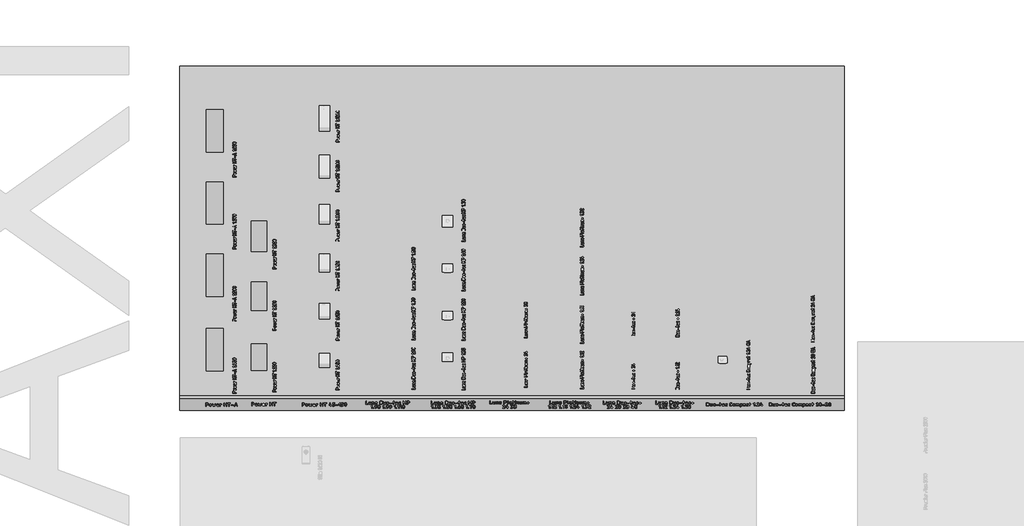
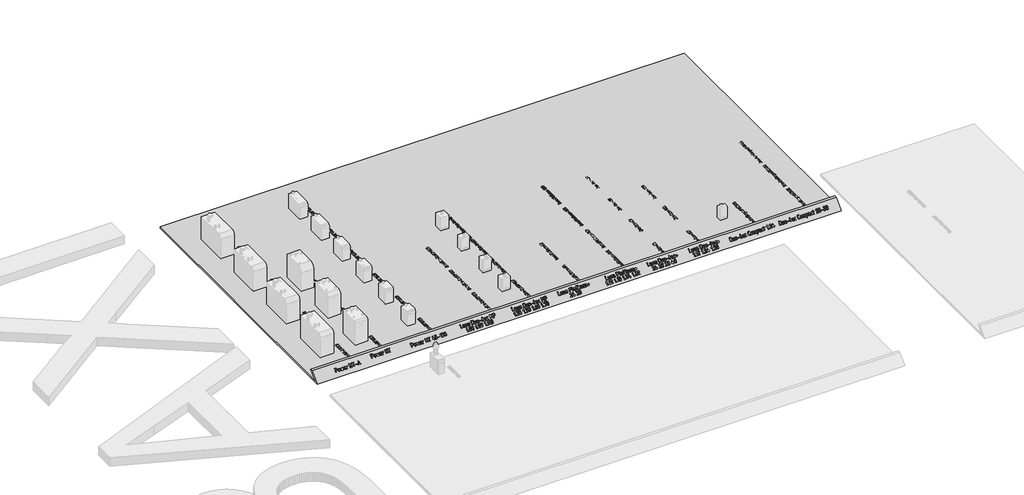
# One storey, part 35 of 37: 4 proxies.
"""IFC4 building model written with IfcOpenShell, lengths in millimetres."""

from ifc_helpers import new_model, si_unit, frame, origin, place, context, project, spatial, polyline, outline, extrude, transform, mapped, element, save
from components import generic_models_4aa8a2a9

model = new_model("IFC4")

# Units and contexts
model_context = context("Model", 3, world=origin())
ifc_project = project(units=[si_unit("LENGTHUNIT", "METRE", prefix="MILLI")], contexts=[model_context])

# Site, building, storey
site = spatial("IfcSite", under=ifc_project)
building = spatial("IfcBuilding", under=site)
storey = spatial("IfcBuildingStorey", under=building, Name="01_Стартовый вид_Площадка", Elevation=0.0)

# Proxies
placement = place(None, origin())
element("IfcBuildingElementProxy", 1, Name="150 мм", ObjectType="150 мм", at=placement, inside=storey, context=model_context, shape_type="SweptSolid", body=[
    extrude(outline(polyline([(15539.4355153, -171.7183075), (15533.7723757, -169.8006306), (15531.8846626, -164.0475999), (15533.7623878, -158.2945692), (15539.3955637, -156.3768923), (15667.4004968, -156.3768923), (15667.4004968, -103.8804872), (15669.3181737, -98.2473113), (15675.0712044, -96.369586), (15680.8242351, -98.2473113), (15682.741912, -103.8804872), (15682.741912, -164.0475999), (15680.8541988, -169.8006306), (15675.1910592, -171.7183075), (15539.4355153, -171.7183075)])), frame((0.0, 0.0, -10.0), z_axis=(0.0, 0.0, 1.0), x_axis=(1.0, 0.0, 0.0)), (0.0, 0.0, 1.0), 10.0),
    extrude(outline(polyline([(15585.3798577, 7.2648698), (15675.2709624, 7.2648698), (15680.8741746, 5.4071203), (15682.741912, -0.1661282), (15682.741912, -37.2412149), (15680.5745376, -48.7372884), (15674.0724143, -58.2957092), (15664.4141145, -64.737905), (15652.7782104, -66.8853037), (15585.3798577, -66.8853037), (15579.7766455, -64.9676268), (15577.9089081, -59.2145961), (15579.7766455, -53.4615654), (15585.3798577, -51.5438885), (15652.4985492, -51.5438885), (15662.9858448, -47.269067), (15667.4004968, -37.0414569), (15667.4004968, -8.0765454), (15585.3798577, -8.0765454), (15579.7766455, -6.1588685), (15577.9089081, -0.4058378), (15579.7766455, 5.3471929), (15585.3798577, 7.2648698)])), frame((0.0, 0.0, -10.0), z_axis=(0.0, 0.0, 1.0), x_axis=(1.0, 0.0, 0.0)), (0.0, 0.0, 1.0), 10.0),
    extrude(outline(polyline([(15675.2709624, 37.9477002), (15585.3798577, 37.9477002), (15579.7766455, 39.8054497), (15577.9089081, 45.3786982), (15577.9089081, 82.4537849), (15580.0762826, 93.9498584), (15586.5784058, 103.5082792), (15596.2367056, 109.950475), (15607.8726097, 112.0978737), (15675.2709624, 112.0978737), (15680.8741746, 110.1801968), (15682.741912, 104.4271661), (15680.8741746, 98.6741354), (15675.2709624, 96.7564585), (15608.1522709, 96.7564585), (15597.5451206, 92.581516), (15593.2503233, 82.2540269), (15593.2503233, 53.2891154), (15675.2709624, 53.2891154), (15680.8741746, 51.3714385), (15682.741912, 45.6184078), (15680.8741746, 39.8653771), (15675.2709624, 37.9477002)])), frame((0.0, 0.0, -10.0), z_axis=(0.0, 0.0, 1.0), x_axis=(1.0, 0.0, 0.0)), (0.0, 0.0, 1.0), 10.0),
    extrude(outline(polyline([(15682.741912, 171.5858091), (15680.5196041, 159.9698808), (15673.8526805, 150.2916052), (15663.9596651, 143.7595183), (15652.0590816, 141.582156), (15636.5978116, 145.5773162), (15625.1816413, 156.3342851), (15621.3762512, 171.5858091), (15621.3762512, 201.5894623), (15607.3132873, 201.5894623), (15597.305411, 197.2746893), (15593.2503233, 186.6076115), (15593.2503233, 156.6039584), (15591.3326464, 150.9707825), (15585.5796157, 149.0930572), (15579.826585, 150.9707825), (15577.9089081, 156.6039584), (15577.9089081, 186.6076115), (15580.0762826, 198.2884612), (15586.5784058, 208.0815976), (15596.2367056, 214.7185575), (15607.8726097, 216.9308775), (15675.2709624, 216.9308775), (15680.8741746, 215.0132006), (15682.741912, 209.2601699), (15682.741912, 171.5858091)]), holes=[polyline([(15636.7176664, 201.5894623), (15636.7176664, 171.5858091), (15641.1922458, 160.9786588), (15652.0590816, 156.6039584), (15662.86599, 161.0385862), (15667.4004968, 171.5858091), (15667.4004968, 201.5894623), (15636.7176664, 201.5894623)])]), frame((0.0, 0.0, -10.0), z_axis=(0.0, 0.0, 1.0), x_axis=(1.0, 0.0, 0.0)), (0.0, 0.0, 1.0), 10.0),
    extrude(outline(polyline([(15531.8846626, 306.2227081), (15531.8846626, 343.4975529), (15535.2405971, 360.751651), (15545.3084008, 375.1991491), (15560.1703968, 384.9822977), (15577.9089081, 388.2433472), (15596.4464515, 385.152092), (15611.1486411, 375.8783264), (15620.7370256, 361.66055), (15623.9331537, 343.7372625), (15623.9331537, 314.0931738), (15675.3908172, 314.0931738), (15680.9041383, 312.1754969), (15682.741912, 306.4224662), (15680.8541988, 300.6694355), (15675.1910592, 298.7517586), (15539.4355153, 298.7517586), (15533.7723757, 300.619496), (15531.8846626, 306.2227081)]), holes=[polyline([(15547.2260777, 314.0931738), (15608.5917385, 314.0931738), (15608.5917385, 343.4975529), (15606.3694307, 354.8887534), (15599.7025071, 364.372265), (15589.8094916, 370.7695152), (15577.9089081, 372.901932), (15566.0083247, 370.7695152), (15556.1153092, 364.372265), (15549.4483856, 354.8887534), (15547.2260777, 343.4975529), (15547.2260777, 314.0931738)])]), frame((0.0, 0.0, -10.0), z_axis=(0.0, 0.0, 1.0), x_axis=(1.0, 0.0, 0.0)), (0.0, 0.0, 1.0), 10.0),
    extrude(outline(polyline([(15539.4355153, 418.9261776), (15533.7723757, 420.8438545), (15531.8846626, 426.5968852), (15533.7723757, 432.3499159), (15539.4355153, 434.2675928), (15660.1293052, 434.2675928), (15664.9035217, 436.1403241), (15667.6402064, 441.7585182), (15670.3868791, 447.3767122), (15675.1910592, 449.2494436), (15680.8541988, 447.3817062), (15682.741912, 441.778494), (15681.2437269, 432.5546679), (15676.7491717, 425.2585065), (15669.5978349, 420.5092598), (15660.1293052, 418.9261776), (15539.4355153, 418.9261776)])), frame((0.0, 0.0, -10.0), z_axis=(0.0, 0.0, 1.0), x_axis=(1.0, 0.0, 0.0)), (0.0, 0.0, 1.0), 10.0),
    extrude(outline(polyline([(15682.741912, 506.540041), (15680.5196041, 494.9241127), (15673.8526805, 485.245837), (15663.9596651, 478.7137501), (15652.0590816, 476.5363878), (15636.5978116, 480.531548), (15625.1816413, 491.2885169), (15621.3762512, 506.540041), (15621.3762512, 536.5436941), (15607.3132873, 536.5436941), (15597.305411, 532.2289211), (15593.2503233, 521.5618433), (15593.2503233, 491.5581902), (15591.3326464, 485.9250143), (15585.5796157, 484.047289), (15579.826585, 485.9250143), (15577.9089081, 491.5581902), (15577.9089081, 521.5618433), (15580.0762826, 533.242693), (15586.5784058, 543.0358295), (15596.2367056, 549.6727893), (15607.8726097, 551.8851093), (15675.2709624, 551.8851093), (15680.8741746, 549.9674324), (15682.741912, 544.2144017), (15682.741912, 506.540041)]), holes=[polyline([(15636.7176664, 536.5436941), (15636.7176664, 506.540041), (15641.1922458, 495.9328906), (15652.0590816, 491.5581902), (15662.86599, 495.992818), (15667.4004968, 506.540041), (15667.4004968, 536.5436941), (15636.7176664, 536.5436941)])]), frame((0.0, 0.0, -10.0), z_axis=(0.0, 0.0, 1.0), x_axis=(1.0, 0.0, 0.0)), (0.0, 0.0, 1.0), 10.0),
    extrude(outline(polyline([(15593.2503233, 597.9093549), (15593.2503233, 590.3984537), (15591.3326464, 584.7652778), (15585.5796157, 582.8875525), (15579.826585, 584.7652778), (15577.9089081, 590.3984537), (15577.9089081, 597.9093549), (15539.5553702, 597.9093549), (15533.8023395, 599.8270318), (15531.8846626, 605.5800625), (15533.8023395, 611.3330932), (15539.5553702, 613.2507701), (15577.9089081, 613.2507701), (15577.9089081, 635.7834737), (15579.826585, 641.3866859), (15585.5796157, 643.2544233), (15591.3326464, 641.3866859), (15593.2503233, 635.7834737), (15593.2503233, 613.2507701), (15675.2709624, 613.2507701), (15680.8741746, 611.3330932), (15682.741912, 605.5800625), (15680.8741746, 599.8270318), (15675.2709624, 597.9093549), (15593.2503233, 597.9093549)])), frame((0.0, 0.0, -10.0), z_axis=(0.0, 0.0, 1.0), x_axis=(1.0, 0.0, 0.0)), (0.0, 0.0, 1.0), 10.0),
    extrude(outline(polyline([(15585.2200513, 672.0595284), (15579.6168391, 673.9772053), (15577.7491017, 679.730236), (15579.6168391, 685.4832667), (15585.2200513, 687.4009436), (15675.2310108, 687.4009436), (15680.8641867, 685.4832667), (15682.741912, 679.730236), (15680.8641867, 673.9772053), (15675.2310108, 672.0595284), (15585.2200513, 672.0595284)])), frame((0.0, 0.0, -10.0), z_axis=(0.0, 0.0, 1.0), x_axis=(1.0, 0.0, 0.0)), (0.0, 0.0, 1.0), 10.0),
    extrude(outline(polyline([(15546.9064649, 672.0595284), (15539.3955637, 672.0595284), (15533.7623878, 673.9772053), (15531.8846626, 679.730236), (15533.7623878, 685.4832667), (15539.3955637, 687.4009436), (15546.9064649, 687.4009436), (15552.5396408, 685.4832667), (15554.4173661, 679.730236), (15552.5396408, 673.9772053), (15546.9064649, 672.0595284)])), frame((0.0, 0.0, -10.0), z_axis=(0.0, 0.0, 1.0), x_axis=(1.0, 0.0, 0.0)), (0.0, 0.0, 1.0), 10.0),
    extrude(outline(polyline([(15675.2709624, 718.083774), (15585.3798577, 718.083774), (15579.7766455, 719.9415234), (15577.9089081, 725.5147719), (15577.9089081, 762.5898587), (15580.0762826, 774.0859322), (15586.5784058, 783.644353), (15596.2367056, 790.0865488), (15607.8726097, 792.2339474), (15675.2709624, 792.2339474), (15680.8741746, 790.3162705), (15682.741912, 784.5632398), (15680.8741746, 778.8102091), (15675.2709624, 776.8925322), (15608.1522709, 776.8925322), (15597.5451206, 772.7175898), (15593.2503233, 762.3901007), (15593.2503233, 733.4251892), (15675.2709624, 733.4251892), (15680.8741746, 731.5075123), (15682.741912, 725.7544816), (15680.8741746, 720.0014509), (15675.2709624, 718.083774)])), frame((0.0, 0.0, -10.0), z_axis=(0.0, 0.0, 1.0), x_axis=(1.0, 0.0, 0.0)), (0.0, 0.0, 1.0), 10.0),
    extrude(outline(polyline([(15585.3798577, 897.0669513), (15675.2709624, 897.0669513), (15680.8741746, 895.2092018), (15682.741912, 889.6359533), (15682.741912, 852.5608665), (15680.5745376, 841.064793), (15674.0724143, 831.5063722), (15664.4141145, 825.0641764), (15652.7782104, 822.9167778), (15585.3798577, 822.9167778), (15579.7766455, 824.8344547), (15577.9089081, 830.5874854), (15579.7766455, 836.3405161), (15585.3798577, 838.258193), (15652.4985492, 838.258193), (15662.9858448, 842.5330144), (15667.4004968, 852.7606246), (15667.4004968, 881.7255361), (15585.3798577, 881.7255361), (15579.7766455, 883.643213), (15577.9089081, 889.3962437), (15579.7766455, 895.1492744), (15585.3798577, 897.0669513)])), frame((0.0, 0.0, -10.0), z_axis=(0.0, 0.0, 1.0), x_axis=(1.0, 0.0, 0.0)), (0.0, 0.0, 1.0), 10.0),
    extrude(outline(polyline([(15577.9089081, 935.4204893), (15577.9089081, 1004.4568576), (15580.0762826, 1016.3574411), (15586.5784058, 1026.2504566), (15596.2367056, 1032.9173802), (15607.8726097, 1035.139688), (15675.2709624, 1035.139688), (15680.8741746, 1033.2220111), (15682.741912, 1027.4689804), (15680.8741746, 1021.7159497), (15675.2709624, 1019.7982728), (15608.1522709, 1019.7982728), (15597.5451206, 1015.3836208), (15593.2503233, 1004.4568576), (15593.2503233, 989.1154424), (15675.2709624, 989.1154424), (15680.8741746, 987.1977655), (15682.741912, 981.4447348), (15680.8741746, 975.6917041), (15675.2709624, 973.7740272), (15593.2503233, 973.7740272), (15593.2503233, 943.0911969), (15675.2709624, 943.0911969), (15680.8741746, 941.17352), (15682.741912, 935.4204893), (15680.8741746, 929.6674586), (15675.2709624, 927.7497817), (15585.3798577, 927.7497817), (15579.7766455, 929.6674586), (15577.9089081, 935.4204893)])), frame((0.0, 0.0, -10.0), z_axis=(0.0, 0.0, 1.0), x_axis=(1.0, 0.0, 0.0)), (0.0, 0.0, 1.0), 10.0),
    extrude(outline(polyline([(15636.7176664, 1096.5053488), (15636.7176664, 1074.0125969), (15634.7999895, 1068.379421), (15629.0469588, 1066.5016957), (15623.2939281, 1068.379421), (15621.3762512, 1074.0125969), (15621.3762512, 1096.5053488), (15600.2818053, 1096.5053488), (15595.0081938, 1098.4230257), (15593.2503233, 1104.1760564), (15595.0081938, 1109.9290871), (15600.2818053, 1111.846764), (15621.3762512, 1111.846764), (15621.3762512, 1134.339516), (15623.2939281, 1139.9726919), (15629.0469588, 1141.8504172), (15634.7999895, 1139.9726919), (15636.7176664, 1134.339516), (15636.7176664, 1111.846764), (15659.7297892, 1111.846764), (15665.4828199, 1109.9290871), (15667.4004968, 1104.1760564), (15665.4828199, 1098.4230257), (15659.7297892, 1096.5053488), (15636.7176664, 1096.5053488)])), frame((0.0, 0.0, -10.0), z_axis=(0.0, 0.0, 1.0), x_axis=(1.0, 0.0, 0.0)), (0.0, 0.0, 1.0), 10.0),
    extrude(outline(polyline([(15557.6134943, 1252.4764033), (15574.912538, 1235.2173112), (15577.0699245, 1229.9836514), (15575.1921992, 1224.3504755), (15569.5590233, 1222.4727502), (15564.3253634, 1224.6700883), (15534.8410811, 1253.9945642), (15531.8846626, 1260.1471109), (15533.7723757, 1265.9001416), (15539.4355153, 1267.8178185), (15675.1910592, 1267.8178185), (15680.8541988, 1265.9001416), (15682.741912, 1260.1471109), (15680.8541988, 1254.3940802), (15675.1910592, 1252.4764033), (15557.6134943, 1252.4764033)])), frame((0.0, 0.0, -10.0), z_axis=(0.0, 0.0, 1.0), x_axis=(1.0, 0.0, 0.0)), (0.0, 0.0, 1.0), 10.0),
    extrude(outline(polyline([(15667.4004968, 1298.5006489), (15661.6474661, 1300.4183258), (15659.7297892, 1306.1713565), (15661.6474661, 1311.9243872), (15667.4004968, 1313.8420641), (15675.0712044, 1313.8420641), (15680.8242351, 1311.9243872), (15682.741912, 1306.1713565), (15680.8242351, 1300.4183258), (15675.0712044, 1298.5006489), (15667.4004968, 1298.5006489)])), frame((0.0, 0.0, -10.0), z_axis=(0.0, 0.0, 1.0), x_axis=(1.0, 0.0, 0.0)), (0.0, 0.0, 1.0), 10.0),
    extrude(outline(polyline([(15531.8846626, 1381.6798845), (15534.6363291, 1396.1074068), (15542.8913289, 1408.227724), (15555.0515978, 1416.4527601), (15569.5190717, 1419.1944388), (15580.3159922, 1417.4865078), (15591.2127916, 1412.3627148), (15667.4004968, 1365.0999696), (15667.4004968, 1411.6835376), (15669.3181737, 1417.3167135), (15675.0712044, 1419.1944388), (15680.8242351, 1417.3167135), (15682.741912, 1411.6835376), (15682.741912, 1351.6762313), (15680.8641867, 1346.0430554), (15675.2310108, 1344.1653301), (15670.8762862, 1345.4437814), (15582.2636328, 1400.4171858), (15569.7987329, 1404.1726364), (15561.1342292, 1402.5246328), (15553.8380679, 1397.5806221), (15548.8790753, 1390.3094305), (15547.2260777, 1381.6798845), (15551.9403668, 1369.4447063), (15566.0832339, 1358.1483908), (15569.7188297, 1351.6762313), (15567.8411044, 1346.0430554), (15562.2079285, 1344.1653301), (15559.1316552, 1344.8844589), (15538.6964107, 1361.0548699), (15533.5875996, 1370.8105517), (15531.8846626, 1381.6798845)])), frame((0.0, 0.0, -10.0), z_axis=(0.0, 0.0, 1.0), x_axis=(1.0, 0.0, 0.0)), (0.0, 0.0, 1.0), 10.0),
    extrude(outline(polyline([(15644.5481804, 1447.9595923), (15642.5106487, 1448.1993019), (15537.358032, 1478.2029551), (15533.2530049, 1480.819785), (15531.8846626, 1485.4741466), (15533.7523999, 1491.1073225), (15539.3556121, 1492.9850478), (15541.5129987, 1492.6254834), (15636.7176664, 1465.3784908), (15636.7176664, 1500.495949), (15614.1849628, 1500.495949), (15608.5817506, 1502.4136259), (15606.7140132, 1508.1666566), (15608.5817506, 1513.9196873), (15614.1849628, 1515.8373642), (15636.7176664, 1515.8373642), (15636.7176664, 1530.8591666), (15638.6353433, 1536.4623788), (15644.388374, 1538.3301162), (15650.1414047, 1536.4623788), (15652.0590816, 1530.8591666), (15652.0590816, 1515.8373642), (15675.0712044, 1515.8373642), (15680.8242351, 1513.9196873), (15682.741912, 1508.1666566), (15680.8242351, 1502.4136259), (15675.0712044, 1500.495949), (15652.0590816, 1500.495949), (15652.0590816, 1455.4704935), (15650.1813563, 1449.8373176), (15644.5481804, 1447.9595923)])), frame((0.0, 0.0, -10.0), z_axis=(0.0, 0.0, 1.0), x_axis=(1.0, 0.0, 0.0)), (0.0, 0.0, 1.0), 10.0),
])
element("IfcBuildingElementProxy", 2, Name="150 мм", ObjectType="150 мм", at=placement, inside=storey, context=model_context, shape_type="SweptSolid", body=[
    extrude(outline(polyline([(15539.4355153, 1968.2816925), (15533.7723757, 1970.1993694), (15531.8846626, 1975.9524001), (15533.7623878, 1981.7054308), (15539.3955637, 1983.6231077), (15667.4004968, 1983.6231077), (15667.4004968, 2036.1195128), (15669.3181737, 2041.7526887), (15675.0712044, 2043.630414), (15680.8242351, 2041.7526887), (15682.741912, 2036.1195128), (15682.741912, 1975.9524001), (15680.8541988, 1970.1993694), (15675.1910592, 1968.2816925), (15539.4355153, 1968.2816925)])), frame((0.0, 0.0, -10.0), z_axis=(0.0, 0.0, 1.0), x_axis=(1.0, 0.0, 0.0)), (0.0, 0.0, 1.0), 10.0),
    extrude(outline(polyline([(15585.3798577, 2147.2648698), (15675.2709624, 2147.2648698), (15680.8741746, 2145.4071203), (15682.741912, 2139.8338718), (15682.741912, 2102.7587851), (15680.5745376, 2091.2627116), (15674.0724143, 2081.7042908), (15664.4141145, 2075.262095), (15652.7782104, 2073.1146963), (15585.3798577, 2073.1146963), (15579.7766455, 2075.0323732), (15577.9089081, 2080.7854039), (15579.7766455, 2086.5384346), (15585.3798577, 2088.4561115), (15652.4985492, 2088.4561115), (15662.9858448, 2092.730933), (15667.4004968, 2102.9585431), (15667.4004968, 2131.9234546), (15585.3798577, 2131.9234546), (15579.7766455, 2133.8411315), (15577.9089081, 2139.5941622), (15579.7766455, 2145.3471929), (15585.3798577, 2147.2648698)])), frame((0.0, 0.0, -10.0), z_axis=(0.0, 0.0, 1.0), x_axis=(1.0, 0.0, 0.0)), (0.0, 0.0, 1.0), 10.0),
    extrude(outline(polyline([(15675.2709624, 2177.9477002), (15585.3798577, 2177.9477002), (15579.7766455, 2179.8054497), (15577.9089081, 2185.3786982), (15577.9089081, 2222.4537849), (15580.0762826, 2233.9498584), (15586.5784058, 2243.5082792), (15596.2367056, 2249.950475), (15607.8726097, 2252.0978737), (15675.2709624, 2252.0978737), (15680.8741746, 2250.1801968), (15682.741912, 2244.4271661), (15680.8741746, 2238.6741354), (15675.2709624, 2236.7564585), (15608.1522709, 2236.7564585), (15597.5451206, 2232.581516), (15593.2503233, 2222.2540269), (15593.2503233, 2193.2891154), (15675.2709624, 2193.2891154), (15680.8741746, 2191.3714385), (15682.741912, 2185.6184078), (15680.8741746, 2179.8653771), (15675.2709624, 2177.9477002)])), frame((0.0, 0.0, -10.0), z_axis=(0.0, 0.0, 1.0), x_axis=(1.0, 0.0, 0.0)), (0.0, 0.0, 1.0), 10.0),
    extrude(outline(polyline([(15682.741912, 2311.5858091), (15680.5196041, 2299.9698808), (15673.8526805, 2290.2916052), (15663.9596651, 2283.7595183), (15652.0590816, 2281.582156), (15636.5978116, 2285.5773162), (15625.1816413, 2296.3342851), (15621.3762512, 2311.5858091), (15621.3762512, 2341.5894623), (15607.3132873, 2341.5894623), (15597.305411, 2337.2746893), (15593.2503233, 2326.6076115), (15593.2503233, 2296.6039584), (15591.3326464, 2290.9707825), (15585.5796157, 2289.0930572), (15579.826585, 2290.9707825), (15577.9089081, 2296.6039584), (15577.9089081, 2326.6076115), (15580.0762826, 2338.2884612), (15586.5784058, 2348.0815976), (15596.2367056, 2354.7185575), (15607.8726097, 2356.9308775), (15675.2709624, 2356.9308775), (15680.8741746, 2355.0132006), (15682.741912, 2349.2601699), (15682.741912, 2311.5858091)]), holes=[polyline([(15636.7176664, 2341.5894623), (15636.7176664, 2311.5858091), (15641.1922458, 2300.9786588), (15652.0590816, 2296.6039584), (15662.86599, 2301.0385862), (15667.4004968, 2311.5858091), (15667.4004968, 2341.5894623), (15636.7176664, 2341.5894623)])]), frame((0.0, 0.0, -10.0), z_axis=(0.0, 0.0, 1.0), x_axis=(1.0, 0.0, 0.0)), (0.0, 0.0, 1.0), 10.0),
    extrude(outline(polyline([(15531.8846626, 2446.2227081), (15531.8846626, 2483.4975529), (15535.2405971, 2500.751651), (15545.3084008, 2515.1991491), (15560.1703968, 2524.9822977), (15577.9089081, 2528.2433472), (15596.4464515, 2525.152092), (15611.1486411, 2515.8783264), (15620.7370256, 2501.66055), (15623.9331537, 2483.7372625), (15623.9331537, 2454.0931738), (15675.3908172, 2454.0931738), (15680.9041383, 2452.1754969), (15682.741912, 2446.4224662), (15680.8541988, 2440.6694355), (15675.1910592, 2438.7517586), (15539.4355153, 2438.7517586), (15533.7723757, 2440.619496), (15531.8846626, 2446.2227081)]), holes=[polyline([(15547.2260777, 2454.0931738), (15608.5917385, 2454.0931738), (15608.5917385, 2483.4975529), (15606.3694307, 2494.8887534), (15599.7025071, 2504.372265), (15589.8094916, 2510.7695152), (15577.9089081, 2512.901932), (15566.0083247, 2510.7695152), (15556.1153092, 2504.372265), (15549.4483856, 2494.8887534), (15547.2260777, 2483.4975529), (15547.2260777, 2454.0931738)])]), frame((0.0, 0.0, -10.0), z_axis=(0.0, 0.0, 1.0), x_axis=(1.0, 0.0, 0.0)), (0.0, 0.0, 1.0), 10.0),
    extrude(outline(polyline([(15539.4355153, 2558.9261776), (15533.7723757, 2560.8438545), (15531.8846626, 2566.5968852), (15533.7723757, 2572.3499159), (15539.4355153, 2574.2675928), (15660.1293052, 2574.2675928), (15664.9035217, 2576.1403241), (15667.6402064, 2581.7585182), (15670.3868791, 2587.3767122), (15675.1910592, 2589.2494436), (15680.8541988, 2587.3817062), (15682.741912, 2581.778494), (15681.2437269, 2572.5546679), (15676.7491717, 2565.2585065), (15669.5978349, 2560.5092598), (15660.1293052, 2558.9261776), (15539.4355153, 2558.9261776)])), frame((0.0, 0.0, -10.0), z_axis=(0.0, 0.0, 1.0), x_axis=(1.0, 0.0, 0.0)), (0.0, 0.0, 1.0), 10.0),
    extrude(outline(polyline([(15682.741912, 2646.540041), (15680.5196041, 2634.9241127), (15673.8526805, 2625.245837), (15663.9596651, 2618.7137501), (15652.0590816, 2616.5363878), (15636.5978116, 2620.531548), (15625.1816413, 2631.2885169), (15621.3762512, 2646.540041), (15621.3762512, 2676.5436941), (15607.3132873, 2676.5436941), (15597.305411, 2672.2289211), (15593.2503233, 2661.5618433), (15593.2503233, 2631.5581902), (15591.3326464, 2625.9250143), (15585.5796157, 2624.047289), (15579.826585, 2625.9250143), (15577.9089081, 2631.5581902), (15577.9089081, 2661.5618433), (15580.0762826, 2673.242693), (15586.5784058, 2683.0358295), (15596.2367056, 2689.6727893), (15607.8726097, 2691.8851093), (15675.2709624, 2691.8851093), (15680.8741746, 2689.9674324), (15682.741912, 2684.2144017), (15682.741912, 2646.540041)]), holes=[polyline([(15636.7176664, 2676.5436941), (15636.7176664, 2646.540041), (15641.1922458, 2635.9328906), (15652.0590816, 2631.5581902), (15662.86599, 2635.992818), (15667.4004968, 2646.540041), (15667.4004968, 2676.5436941), (15636.7176664, 2676.5436941)])]), frame((0.0, 0.0, -10.0), z_axis=(0.0, 0.0, 1.0), x_axis=(1.0, 0.0, 0.0)), (0.0, 0.0, 1.0), 10.0),
    extrude(outline(polyline([(15593.2503233, 2737.9093549), (15593.2503233, 2730.3984537), (15591.3326464, 2724.7652778), (15585.5796157, 2722.8875525), (15579.826585, 2724.7652778), (15577.9089081, 2730.3984537), (15577.9089081, 2737.9093549), (15539.5553702, 2737.9093549), (15533.8023395, 2739.8270318), (15531.8846626, 2745.5800625), (15533.8023395, 2751.3330932), (15539.5553702, 2753.2507701), (15577.9089081, 2753.2507701), (15577.9089081, 2775.7834737), (15579.826585, 2781.3866859), (15585.5796157, 2783.2544233), (15591.3326464, 2781.3866859), (15593.2503233, 2775.7834737), (15593.2503233, 2753.2507701), (15675.2709624, 2753.2507701), (15680.8741746, 2751.3330932), (15682.741912, 2745.5800625), (15680.8741746, 2739.8270318), (15675.2709624, 2737.9093549), (15593.2503233, 2737.9093549)])), frame((0.0, 0.0, -10.0), z_axis=(0.0, 0.0, 1.0), x_axis=(1.0, 0.0, 0.0)), (0.0, 0.0, 1.0), 10.0),
    extrude(outline(polyline([(15585.2200513, 2812.0595284), (15579.6168391, 2813.9772053), (15577.7491017, 2819.730236), (15579.6168391, 2825.4832667), (15585.2200513, 2827.4009436), (15675.2310108, 2827.4009436), (15680.8641867, 2825.4832667), (15682.741912, 2819.730236), (15680.8641867, 2813.9772053), (15675.2310108, 2812.0595284), (15585.2200513, 2812.0595284)])), frame((0.0, 0.0, -10.0), z_axis=(0.0, 0.0, 1.0), x_axis=(1.0, 0.0, 0.0)), (0.0, 0.0, 1.0), 10.0),
    extrude(outline(polyline([(15546.9064649, 2812.0595284), (15539.3955637, 2812.0595284), (15533.7623878, 2813.9772053), (15531.8846626, 2819.730236), (15533.7623878, 2825.4832667), (15539.3955637, 2827.4009436), (15546.9064649, 2827.4009436), (15552.5396408, 2825.4832667), (15554.4173661, 2819.730236), (15552.5396408, 2813.9772053), (15546.9064649, 2812.0595284)])), frame((0.0, 0.0, -10.0), z_axis=(0.0, 0.0, 1.0), x_axis=(1.0, 0.0, 0.0)), (0.0, 0.0, 1.0), 10.0),
    extrude(outline(polyline([(15675.2709624, 2858.083774), (15585.3798577, 2858.083774), (15579.7766455, 2859.9415234), (15577.9089081, 2865.5147719), (15577.9089081, 2902.5898587), (15580.0762826, 2914.0859322), (15586.5784058, 2923.644353), (15596.2367056, 2930.0865488), (15607.8726097, 2932.2339474), (15675.2709624, 2932.2339474), (15680.8741746, 2930.3162705), (15682.741912, 2924.5632398), (15680.8741746, 2918.8102091), (15675.2709624, 2916.8925322), (15608.1522709, 2916.8925322), (15597.5451206, 2912.7175898), (15593.2503233, 2902.3901007), (15593.2503233, 2873.4251892), (15675.2709624, 2873.4251892), (15680.8741746, 2871.5075123), (15682.741912, 2865.7544816), (15680.8741746, 2860.0014509), (15675.2709624, 2858.083774)])), frame((0.0, 0.0, -10.0), z_axis=(0.0, 0.0, 1.0), x_axis=(1.0, 0.0, 0.0)), (0.0, 0.0, 1.0), 10.0),
    extrude(outline(polyline([(15585.3798577, 3037.0669513), (15675.2709624, 3037.0669513), (15680.8741746, 3035.2092018), (15682.741912, 3029.6359533), (15682.741912, 2992.5608665), (15680.5745376, 2981.064793), (15674.0724143, 2971.5063722), (15664.4141145, 2965.0641764), (15652.7782104, 2962.9167778), (15585.3798577, 2962.9167778), (15579.7766455, 2964.8344547), (15577.9089081, 2970.5874854), (15579.7766455, 2976.3405161), (15585.3798577, 2978.258193), (15652.4985492, 2978.258193), (15662.9858448, 2982.5330144), (15667.4004968, 2992.7606246), (15667.4004968, 3021.7255361), (15585.3798577, 3021.7255361), (15579.7766455, 3023.643213), (15577.9089081, 3029.3962437), (15579.7766455, 3035.1492744), (15585.3798577, 3037.0669513)])), frame((0.0, 0.0, -10.0), z_axis=(0.0, 0.0, 1.0), x_axis=(1.0, 0.0, 0.0)), (0.0, 0.0, 1.0), 10.0),
    extrude(outline(polyline([(15577.9089081, 3075.4204893), (15577.9089081, 3144.4568576), (15580.0762826, 3156.3574411), (15586.5784058, 3166.2504566), (15596.2367056, 3172.9173802), (15607.8726097, 3175.139688), (15675.2709624, 3175.139688), (15680.8741746, 3173.2220111), (15682.741912, 3167.4689804), (15680.8741746, 3161.7159497), (15675.2709624, 3159.7982728), (15608.1522709, 3159.7982728), (15597.5451206, 3155.3836208), (15593.2503233, 3144.4568576), (15593.2503233, 3129.1154424), (15675.2709624, 3129.1154424), (15680.8741746, 3127.1977655), (15682.741912, 3121.4447348), (15680.8741746, 3115.6917041), (15675.2709624, 3113.7740272), (15593.2503233, 3113.7740272), (15593.2503233, 3083.0911969), (15675.2709624, 3083.0911969), (15680.8741746, 3081.17352), (15682.741912, 3075.4204893), (15680.8741746, 3069.6674586), (15675.2709624, 3067.7497817), (15585.3798577, 3067.7497817), (15579.7766455, 3069.6674586), (15577.9089081, 3075.4204893)])), frame((0.0, 0.0, -10.0), z_axis=(0.0, 0.0, 1.0), x_axis=(1.0, 0.0, 0.0)), (0.0, 0.0, 1.0), 10.0),
    extrude(outline(polyline([(15636.7176664, 3236.5053488), (15636.7176664, 3214.0125969), (15634.7999895, 3208.379421), (15629.0469588, 3206.5016957), (15623.2939281, 3208.379421), (15621.3762512, 3214.0125969), (15621.3762512, 3236.5053488), (15600.2818053, 3236.5053488), (15595.0081938, 3238.4230257), (15593.2503233, 3244.1760564), (15595.0081938, 3249.9290871), (15600.2818053, 3251.846764), (15621.3762512, 3251.846764), (15621.3762512, 3274.339516), (15623.2939281, 3279.9726919), (15629.0469588, 3281.8504172), (15634.7999895, 3279.9726919), (15636.7176664, 3274.339516), (15636.7176664, 3251.846764), (15659.7297892, 3251.846764), (15665.4828199, 3249.9290871), (15667.4004968, 3244.1760564), (15665.4828199, 3238.4230257), (15659.7297892, 3236.5053488), (15636.7176664, 3236.5053488)])), frame((0.0, 0.0, -10.0), z_axis=(0.0, 0.0, 1.0), x_axis=(1.0, 0.0, 0.0)), (0.0, 0.0, 1.0), 10.0),
    extrude(outline(polyline([(15557.6134943, 3392.4764033), (15574.912538, 3375.2173112), (15577.0699245, 3369.9836514), (15575.1921992, 3364.3504755), (15569.5590233, 3362.4727502), (15564.3253634, 3364.6700883), (15534.8410811, 3393.9945642), (15531.8846626, 3400.1471109), (15533.7723757, 3405.9001416), (15539.4355153, 3407.8178185), (15675.1910592, 3407.8178185), (15680.8541988, 3405.9001416), (15682.741912, 3400.1471109), (15680.8541988, 3394.3940802), (15675.1910592, 3392.4764033), (15557.6134943, 3392.4764033)])), frame((0.0, 0.0, -10.0), z_axis=(0.0, 0.0, 1.0), x_axis=(1.0, 0.0, 0.0)), (0.0, 0.0, 1.0), 10.0),
    extrude(outline(polyline([(15667.4004968, 3438.5006489), (15661.6474661, 3440.4183258), (15659.7297892, 3446.1713565), (15661.6474661, 3451.9243872), (15667.4004968, 3453.8420641), (15675.0712044, 3453.8420641), (15680.8242351, 3451.9243872), (15682.741912, 3446.1713565), (15680.8242351, 3440.4183258), (15675.0712044, 3438.5006489), (15667.4004968, 3438.5006489)])), frame((0.0, 0.0, -10.0), z_axis=(0.0, 0.0, 1.0), x_axis=(1.0, 0.0, 0.0)), (0.0, 0.0, 1.0), 10.0),
    extrude(outline(polyline([(15608.5917385, 3520.8409008), (15608.5917385, 3505.85905), (15606.6740616, 3500.2258741), (15600.9210309, 3498.3481488), (15595.1680002, 3500.2258741), (15593.2503233, 3505.85905), (15593.2503233, 3520.8409008), (15591.57735, 3529.5453561), (15586.55843, 3536.8015658), (15579.132426, 3541.700631), (15570.2382005, 3543.3336528), (15561.3939146, 3541.6856492), (15553.9579227, 3536.7416384), (15548.909039, 3529.4704469), (15547.2260777, 3520.8409008), (15547.2260777, 3490.8372476), (15545.3084008, 3485.2040718), (15539.5553702, 3483.3263465), (15533.8023395, 3485.2040718), (15531.8846626, 3490.8372476), (15531.8846626, 3520.8409008), (15534.7012505, 3535.3083747), (15543.1510143, 3547.5485468), (15555.5559868, 3555.8934377), (15570.2382005, 3558.675068), (15587.4373652, 3554.9196174), (15600.9210309, 3543.6532656), (15613.9951927, 3554.9196174), (15630.6849745, 3558.675068), (15645.5469705, 3558.675068), (15659.8596319, 3555.8784558), (15671.8750762, 3547.4886194), (15680.0252031, 3535.2334655), (15682.741912, 3520.8409008), (15682.741912, 3490.8372476), (15680.8242351, 3485.2040718), (15675.0712044, 3483.3263465), (15669.3181737, 3485.2040718), (15667.4004968, 3490.8372476), (15667.4004968, 3520.8409008), (15665.7974388, 3529.5453561), (15660.9882647, 3536.8015658), (15653.8718855, 3541.700631), (15645.3472124, 3543.3336528), (15630.6450229, 3543.3336528), (15622.1702893, 3541.6856492), (15615.0439223, 3536.7416384), (15610.2047845, 3529.4704469), (15608.5917385, 3520.8409008)])), frame((0.0, 0.0, -10.0), z_axis=(0.0, 0.0, 1.0), x_axis=(1.0, 0.0, 0.0)), (0.0, 0.0, 1.0), 10.0),
    extrude(outline(polyline([(15531.8846626, 3626.5128883), (15534.6363291, 3640.9404106), (15542.8913289, 3653.0607279), (15555.0515978, 3661.285764), (15569.5190717, 3664.0274427), (15580.3159922, 3662.3195117), (15591.2127916, 3657.1957187), (15667.4004968, 3609.9329734), (15667.4004968, 3656.5165415), (15669.3181737, 3662.1497174), (15675.0712044, 3664.0274427), (15680.8242351, 3662.1497174), (15682.741912, 3656.5165415), (15682.741912, 3596.5092351), (15680.8641867, 3590.8760592), (15675.2310108, 3588.9983339), (15670.8762862, 3590.2767852), (15582.2636328, 3645.2501897), (15569.7987329, 3649.0056403), (15561.1342292, 3647.3576367), (15553.8380679, 3642.4136259), (15548.8790753, 3635.1424343), (15547.2260777, 3626.5128883), (15551.9403668, 3614.2777102), (15566.0832339, 3602.9813947), (15569.7188297, 3596.5092351), (15567.8411044, 3590.8760592), (15562.2079285, 3588.9983339), (15559.1316552, 3589.7174628), (15538.6964107, 3605.8878737), (15533.5875996, 3615.6435556), (15531.8846626, 3626.5128883)])), frame((0.0, 0.0, -10.0), z_axis=(0.0, 0.0, 1.0), x_axis=(1.0, 0.0, 0.0)), (0.0, 0.0, 1.0), 10.0),
])
element("IfcBuildingElementProxy", 3, Name="150 мм", ObjectType="150 мм", at=placement, inside=storey, context=model_context, shape_type="SweptSolid", body=[
    extrude(outline(polyline([(10289.4415309, 2217.2253481), (10283.7783913, 2219.143025), (10281.8906781, 2224.8960557), (10283.7684034, 2230.6490864), (10289.4015793, 2232.5667633), (10417.4065123, 2232.5667633), (10417.4065123, 2285.0631684), (10419.3241892, 2290.6963443), (10425.0772199, 2292.5740696), (10430.8302506, 2290.6963443), (10432.7479275, 2285.0631684), (10432.7479275, 2224.8960557), (10430.8602143, 2219.143025), (10425.1970747, 2217.2253481), (10289.4415309, 2217.2253481)])), frame((0.0, 0.0, -10.0), z_axis=(0.0, 0.0, 1.0), x_axis=(1.0, 0.0, 0.0)), (0.0, 0.0, 1.0), 10.0),
    extrude(outline(polyline([(10335.3858733, 2396.2085254), (10425.2769779, 2396.2085254), (10430.8801901, 2394.3507759), (10432.7479275, 2388.7775274), (10432.7479275, 2351.7024407), (10430.5805531, 2340.2063672), (10424.0784299, 2330.6479464), (10414.4201301, 2324.2057505), (10402.784226, 2322.0583519), (10335.3858733, 2322.0583519), (10329.7826611, 2323.9760288), (10327.9149237, 2329.7290595), (10329.7826611, 2335.4820902), (10335.3858733, 2337.3997671), (10402.5045648, 2337.3997671), (10412.9918603, 2341.6745885), (10417.4065123, 2351.9021987), (10417.4065123, 2380.8671102), (10335.3858733, 2380.8671102), (10329.7826611, 2382.7847871), (10327.9149237, 2388.5378178), (10329.7826611, 2394.2908485), (10335.3858733, 2396.2085254)])), frame((0.0, 0.0, -10.0), z_axis=(0.0, 0.0, 1.0), x_axis=(1.0, 0.0, 0.0)), (0.0, 0.0, 1.0), 10.0),
    extrude(outline(polyline([(10425.2769779, 2426.8913558), (10335.3858733, 2426.8913558), (10329.7826611, 2428.7491053), (10327.9149237, 2434.3223538), (10327.9149237, 2471.3974405), (10330.0822981, 2482.893514), (10336.5844213, 2492.4519348), (10346.2427211, 2498.8941306), (10357.8786252, 2501.0415292), (10425.2769779, 2501.0415292), (10430.8801901, 2499.1238523), (10432.7479275, 2493.3708216), (10430.8801901, 2487.6177909), (10425.2769779, 2485.700114), (10358.1582865, 2485.700114), (10347.5511361, 2481.5251716), (10343.2563389, 2471.1976825), (10343.2563389, 2442.232771), (10425.2769779, 2442.232771), (10430.8801901, 2440.3150941), (10432.7479275, 2434.5620634), (10430.8801901, 2428.8090327), (10425.2769779, 2426.8913558)])), frame((0.0, 0.0, -10.0), z_axis=(0.0, 0.0, 1.0), x_axis=(1.0, 0.0, 0.0)), (0.0, 0.0, 1.0), 10.0),
    extrude(outline(polyline([(10432.7479275, 2560.5294647), (10430.5256197, 2548.9135364), (10423.8586961, 2539.2352608), (10413.9656806, 2532.7031739), (10402.0650971, 2530.5258116), (10386.6038271, 2534.5209718), (10375.1876568, 2545.2779406), (10371.3822667, 2560.5294647), (10371.3822667, 2590.5331179), (10357.3193028, 2590.5331179), (10347.3114265, 2586.2183449), (10343.2563389, 2575.5512671), (10343.2563389, 2545.5476139), (10341.338662, 2539.9144381), (10335.5856313, 2538.0367128), (10329.8326006, 2539.9144381), (10327.9149237, 2545.5476139), (10327.9149237, 2575.5512671), (10330.0822981, 2587.2321168), (10336.5844213, 2597.0252532), (10346.2427211, 2603.6622131), (10357.8786252, 2605.8745331), (10425.2769779, 2605.8745331), (10430.8801901, 2603.9568562), (10432.7479275, 2598.2038255), (10432.7479275, 2560.5294647)]), holes=[polyline([(10386.7236819, 2590.5331179), (10386.7236819, 2560.5294647), (10391.1982614, 2549.9223144), (10402.0650971, 2545.5476139), (10412.8720055, 2549.9822418), (10417.4065123, 2560.5294647), (10417.4065123, 2590.5331179), (10386.7236819, 2590.5331179)])]), frame((0.0, 0.0, -10.0), z_axis=(0.0, 0.0, 1.0), x_axis=(1.0, 0.0, 0.0)), (0.0, 0.0, 1.0), 10.0),
    extrude(outline(polyline([(10289.4415309, 2687.6954141), (10283.7783913, 2689.5631515), (10281.8906781, 2695.1663637), (10281.8906781, 2739.912158), (10284.6173749, 2754.3846259), (10292.7974655, 2766.4000702), (10304.9527404, 2774.4902696), (10319.6049905, 2777.1870028), (10395.0336152, 2777.1870028), (10409.5360467, 2774.4603059), (10421.7212854, 2766.2802154), (10429.991267, 2754.2348074), (10432.7479275, 2739.912158), (10432.7479275, 2695.1663637), (10430.8602143, 2689.5631515), (10425.1970747, 2687.6954141), (10289.4415309, 2687.6954141)]), holes=[polyline([(10297.2320933, 2703.0368293), (10417.4065123, 2703.0368293), (10417.4065123, 2739.7923032), (10415.7585087, 2748.2670368), (10410.814498, 2755.3934039), (10403.5333185, 2760.2325417), (10394.8738088, 2761.8455876), (10319.7647969, 2761.8455876), (10311.1052871, 2760.2325417), (10303.8241076, 2755.3934039), (10298.8800969, 2748.2670368), (10297.2320933, 2739.7923032), (10297.2320933, 2703.0368293)])]), frame((0.0, 0.0, -10.0), z_axis=(0.0, 0.0, 1.0), x_axis=(1.0, 0.0, 0.0)), (0.0, 0.0, 1.0), 10.0),
    extrude(outline(polyline([(10335.3858733, 2882.0200066), (10425.2769779, 2882.0200066), (10430.8801901, 2880.1622571), (10432.7479275, 2874.5890087), (10432.7479275, 2837.5139219), (10430.5805531, 2826.0178484), (10424.0784299, 2816.4594276), (10414.4201301, 2810.0172318), (10402.784226, 2807.8698332), (10335.3858733, 2807.8698332), (10329.7826611, 2809.7875101), (10327.9149237, 2815.5405408), (10329.7826611, 2821.2935715), (10335.3858733, 2823.2112484), (10402.5045648, 2823.2112484), (10412.9918603, 2827.4860698), (10417.4065123, 2837.7136799), (10417.4065123, 2866.6785914), (10335.3858733, 2866.6785914), (10329.7826611, 2868.5962683), (10327.9149237, 2874.349299), (10329.7826611, 2880.1023297), (10335.3858733, 2882.0200066)])), frame((0.0, 0.0, -10.0), z_axis=(0.0, 0.0, 1.0), x_axis=(1.0, 0.0, 0.0)), (0.0, 0.0, 1.0), 10.0),
    extrude(outline(polyline([(10395.3132764, 2912.702837), (10365.3495748, 2912.702837), (10350.9570102, 2915.414552), (10338.8616627, 2923.549697), (10330.6516084, 2935.5301837), (10327.9149237, 2949.7779238), (10330.6216447, 2964.1754824), (10338.7418078, 2976.1260053), (10350.8071917, 2984.1712592), (10365.3495748, 2986.8530105), (10395.3132764, 2986.8530105), (10409.705841, 2984.1412955), (10421.8011886, 2976.0061505), (10430.0112428, 2964.0256638), (10432.7479275, 2949.7779238), (10430.0112428, 2935.5301837), (10421.8011886, 2923.549697), (10409.705841, 2915.414552), (10395.3132764, 2912.702837)]), holes=[polyline([(10394.8738088, 2971.5115953), (10364.8701556, 2971.5115953), (10356.2406096, 2969.9185252), (10348.969418, 2965.1393148), (10344.0254072, 2958.1128267), (10342.3774036, 2949.7779238), (10344.0254072, 2941.4430208), (10348.969418, 2934.4165328), (10356.2406096, 2929.6373224), (10364.8701556, 2928.0442522), (10394.8738088, 2928.0442522), (10403.583258, 2929.6223405), (10410.8544496, 2934.3566054), (10415.7684966, 2941.3681115), (10417.4065123, 2949.7779238), (10415.7585087, 2958.1128267), (10410.814498, 2965.1393148), (10403.5333185, 2969.9185252), (10394.8738088, 2971.5115953)])]), frame((0.0, 0.0, -10.0), z_axis=(0.0, 0.0, 1.0), x_axis=(1.0, 0.0, 0.0)), (0.0, 0.0, 1.0), 10.0),
    extrude(outline(polyline([(10394.3943895, 3084.694484), (10394.3943895, 3024.6871777), (10392.4767126, 3019.0540018), (10386.7236819, 3017.1762765), (10380.9706512, 3019.0540018), (10379.0529743, 3024.6871777), (10379.0529743, 3084.694484), (10380.9706512, 3090.3276599), (10386.7236819, 3092.2053852), (10392.4767126, 3090.3276599), (10394.3943895, 3084.694484)])), frame((0.0, 0.0, -10.0), z_axis=(0.0, 0.0, 1.0), x_axis=(1.0, 0.0, 0.0)), (0.0, 0.0, 1.0), 10.0),
    extrude(outline(polyline([(10343.2563389, 3137.7102599), (10343.2563389, 3130.1993587), (10341.338662, 3124.5661828), (10335.5856313, 3122.6884575), (10329.8326006, 3124.5661828), (10327.9149237, 3130.1993587), (10327.9149237, 3137.7102599), (10289.5613857, 3137.7102599), (10283.808355, 3139.6279368), (10281.8906781, 3145.3809675), (10283.808355, 3151.1339982), (10289.5613857, 3153.0516751), (10327.9149237, 3153.0516751), (10327.9149237, 3175.5843787), (10329.8326006, 3181.1875909), (10335.5856313, 3183.0553283), (10341.338662, 3181.1875909), (10343.2563389, 3175.5843787), (10343.2563389, 3153.0516751), (10425.2769779, 3153.0516751), (10430.8801901, 3151.1339982), (10432.7479275, 3145.3809675), (10430.8801901, 3139.6279368), (10425.2769779, 3137.7102599), (10343.2563389, 3137.7102599)])), frame((0.0, 0.0, -10.0), z_axis=(0.0, 0.0, 1.0), x_axis=(1.0, 0.0, 0.0)), (0.0, 0.0, 1.0), 10.0),
    extrude(outline(polyline([(10386.7236819, 3227.2018486), (10402.0650971, 3227.2018486), (10412.8720055, 3231.6364764), (10417.4065123, 3242.1836994), (10417.4065123, 3279.6982537), (10419.3241892, 3285.3314296), (10425.0772199, 3287.2091549), (10430.8302506, 3285.3314296), (10432.7479275, 3279.6982537), (10432.7479275, 3242.1836994), (10430.5805531, 3230.5278195), (10424.0784299, 3220.729689), (10414.4201301, 3214.0777473), (10402.784226, 3211.8604334), (10365.3495748, 3211.8604334), (10350.9570102, 3214.6420637), (10338.8616627, 3222.9869546), (10330.6516084, 3235.2271266), (10327.9149237, 3249.6946006), (10330.5717052, 3264.2719414), (10338.5420498, 3276.3622949), (10350.3876999, 3284.4974399), (10364.6703976, 3287.2091549), (10386.7236819, 3287.2091549), (10386.7236819, 3227.2018486)]), holes=[polyline([(10341.3786136, 3249.6946006), (10343.0266172, 3241.0650545), (10347.9706279, 3233.7938629), (10355.2418195, 3228.8498522), (10363.8713656, 3227.2018486), (10371.3822667, 3227.2018486), (10371.3822667, 3272.1873525), (10363.8713656, 3272.1873525), (10355.2418195, 3270.5393489), (10347.9706279, 3265.5953382), (10343.0266172, 3258.3241466), (10341.3786136, 3249.6946006)])]), frame((0.0, 0.0, -10.0), z_axis=(0.0, 0.0, 1.0), x_axis=(1.0, 0.0, 0.0)), (0.0, 0.0, 1.0), 10.0),
    extrude(outline(polyline([(10358.0783833, 3332.0348524), (10402.584468, 3332.0348524), (10413.0318119, 3336.4694803), (10417.4065123, 3347.0167032), (10417.4065123, 3369.5494068), (10419.3241892, 3375.152619), (10425.0772199, 3377.0203564), (10430.8302506, 3375.152619), (10432.7479275, 3369.5494068), (10432.7479275, 3347.0167032), (10430.5805531, 3335.3608233), (10424.0784299, 3325.5626929), (10414.4201301, 3318.9107511), (10402.784226, 3316.6934372), (10357.8786252, 3316.6934372), (10346.2427211, 3318.9107511), (10336.5844213, 3325.5626929), (10330.0822981, 3335.3608233), (10327.9149237, 3347.0167032), (10327.9149237, 3369.5494068), (10329.8326006, 3375.152619), (10335.5856313, 3377.0203564), (10341.338662, 3375.152619), (10343.2563389, 3369.5494068), (10343.2563389, 3347.0167032), (10347.5910877, 3336.4095529), (10358.0783833, 3332.0348524)])), frame((0.0, 0.0, -10.0), z_axis=(0.0, 0.0, 1.0), x_axis=(1.0, 0.0, 0.0)), (0.0, 0.0, 1.0), 10.0),
    extrude(outline(polyline([(10281.8906781, 3553.8461472), (10283.7783913, 3560.0785971), (10289.4415309, 3562.1560804), (10425.1970747, 3562.1560804), (10430.8602143, 3560.2384035), (10432.7479275, 3554.4853728), (10430.8602143, 3548.7323421), (10425.1970747, 3546.8146652), (10314.2514758, 3546.8146652), (10360.0759634, 3516.611254), (10364.5904944, 3509.7395785), (10360.0759634, 3502.7879997), (10314.2514758, 3472.6644917), (10425.1970747, 3472.6644917), (10430.8602143, 3470.7468148), (10432.7479275, 3464.9937841), (10430.8602143, 3459.2407534), (10425.1970747, 3457.3230765), (10289.4415309, 3457.3230765), (10283.7783913, 3459.3606082), (10281.8906781, 3465.4732034), (10285.6461287, 3472.6644917), (10343.6159033, 3509.6197237), (10285.2066611, 3546.8146652), (10281.8906781, 3553.8461472)])), frame((0.0, 0.0, -10.0), z_axis=(0.0, 0.0, 1.0), x_axis=(1.0, 0.0, 0.0)), (0.0, 0.0, 1.0), 10.0),
    extrude(outline(polyline([(10281.8906781, 3600.3098604), (10281.8906781, 3637.5847051), (10285.2466127, 3654.8388033), (10295.3144164, 3669.2863014), (10310.1764124, 3679.0694499), (10327.9149237, 3682.3304994), (10346.452467, 3679.2392442), (10361.1546566, 3669.9654786), (10370.7430411, 3655.7477022), (10373.9391693, 3637.8244147), (10373.9391693, 3608.180326), (10425.3968328, 3608.180326), (10430.9101538, 3606.2626491), (10432.7479275, 3600.5096184), (10430.8602143, 3594.7565877), (10425.1970747, 3592.8389108), (10289.4415309, 3592.8389108), (10283.7783913, 3594.7066482), (10281.8906781, 3600.3098604)]), holes=[polyline([(10297.2320933, 3608.180326), (10358.5977541, 3608.180326), (10358.5977541, 3637.5847051), (10356.3754462, 3648.9759057), (10349.7085226, 3658.4594172), (10339.8155072, 3664.8566675), (10327.9149237, 3666.9890842), (10316.0143402, 3664.8566675), (10306.1213247, 3658.4594172), (10299.4544012, 3648.9759057), (10297.2320933, 3637.5847051), (10297.2320933, 3608.180326)])]), frame((0.0, 0.0, -10.0), z_axis=(0.0, 0.0, 1.0), x_axis=(1.0, 0.0, 0.0)), (0.0, 0.0, 1.0), 10.0),
    extrude(outline(polyline([(10307.6195098, 3794.8342109), (10324.9185535, 3777.5751188), (10327.07594, 3772.3414589), (10325.1982147, 3766.708283), (10319.5650388, 3764.8305577), (10314.331379, 3767.0278958), (10284.8470966, 3796.3523718), (10281.8906781, 3802.5049185), (10283.7783913, 3808.2579492), (10289.4415309, 3810.1756261), (10425.1970747, 3810.1756261), (10430.8602143, 3808.2579492), (10432.7479275, 3802.5049185), (10430.8602143, 3796.7518878), (10425.1970747, 3794.8342109), (10307.6195098, 3794.8342109)])), frame((0.0, 0.0, -10.0), z_axis=(0.0, 0.0, 1.0), x_axis=(1.0, 0.0, 0.0)), (0.0, 0.0, 1.0), 10.0),
    extrude(outline(polyline([(10417.4065123, 3840.8584565), (10411.6534816, 3842.7761334), (10409.7358047, 3848.5291641), (10411.6534816, 3854.2821948), (10417.4065123, 3856.1998717), (10425.0772199, 3856.1998717), (10430.8302506, 3854.2821948), (10432.7479275, 3848.5291641), (10430.8302506, 3842.7761334), (10425.0772199, 3840.8584565), (10417.4065123, 3840.8584565)])), frame((0.0, 0.0, -10.0), z_axis=(0.0, 0.0, 1.0), x_axis=(1.0, 0.0, 0.0)), (0.0, 0.0, 1.0), 10.0),
    extrude(outline(polyline([(10297.3918997, 3945.4117991), (10297.3918997, 3902.1042625), (10305.7018329, 3902.1042625), (10311.3350088, 3900.2265372), (10313.2127341, 3894.8330709), (10311.2451177, 3889.1399676), (10305.5819781, 3887.2422665), (10289.9209501, 3887.3221697), (10284.2877742, 3889.199895), (10282.4100489, 3894.8330709), (10282.4100489, 3954.8403772), (10284.2278468, 3960.4136257), (10289.6812405, 3962.3512784), (10291.4790626, 3962.1115688), (10426.5154776, 3932.1079156), (10430.9201417, 3929.6409042), (10432.3883631, 3924.9565789), (10430.5206257, 3919.2335119), (10424.9174135, 3917.3258229), (10423.1994946, 3917.4456777), (10297.3918997, 3945.4117991)])), frame((0.0, 0.0, -10.0), z_axis=(0.0, 0.0, 1.0), x_axis=(1.0, 0.0, 0.0)), (0.0, 0.0, 1.0), 10.0),
    extrude(outline(polyline([(10357.3193028, 4065.8658794), (10382.4588484, 4064.2378516), (10403.9428224, 4059.3537682), (10425.5466513, 4046.9388079), (10430.9476085, 4038.5814321), (10432.7479275, 4028.7907927), (10430.9550994, 4019.0001532), (10425.576615, 4010.6427774), (10404.0626772, 3998.2278171), (10382.5487395, 3993.3437337), (10357.3193028, 3991.7157059), (10332.0898661, 3993.3437337), (10310.5759284, 3998.2278171), (10289.0619907, 4010.6427774), (10283.6835062, 4019.0001532), (10281.8906781, 4028.7907927), (10283.6909972, 4038.5814321), (10289.0919544, 4046.9388079), (10310.6957832, 4059.3537682), (10332.1797572, 4064.2378516), (10357.3193028, 4065.8658794)]), holes=[polyline([(10357.3193028, 4050.5244642), (10322.161893, 4046.6891104), (10303.4645432, 4039.298064), (10297.2320933, 4028.7907927), (10303.4945069, 4018.3734124), (10322.2817478, 4011.0123297), (10357.3193028, 4007.0571211), (10392.4767126, 4010.8924749), (10411.1740624, 4018.2835213), (10417.4065123, 4028.7907927), (10411.1740624, 4039.298064), (10392.4767126, 4046.6891104), (10357.3193028, 4050.5244642)])]), frame((0.0, 0.0, -10.0), z_axis=(0.0, 0.0, 1.0), x_axis=(1.0, 0.0, 0.0)), (0.0, 0.0, 1.0), 10.0),
])
generic_models_shape = generic_models_4aa8a2a9(model_context)
element("IfcBuildingElementProxy", 4, Name="Подставка1 : Подставка", ObjectType="Подставка1 : Подставка", at=placement, inside=storey, context=model_context, shape_type="MappedRepresentation", body=[
    mapped(generic_models_shape, transform((16032.7321133, 532.7599522, 0.0), x_axis=(1.0, 0.0, 0.0), y_axis=(0.0, 1.0, 0.0), z_axis=(0.0, 0.0, 1.0))),
])

save(model, "model.ifc")
